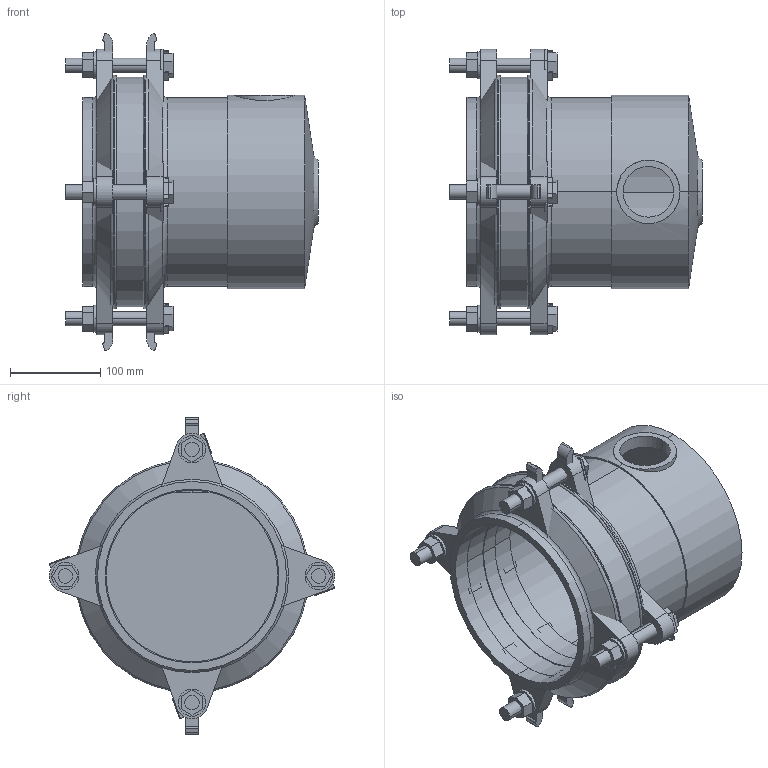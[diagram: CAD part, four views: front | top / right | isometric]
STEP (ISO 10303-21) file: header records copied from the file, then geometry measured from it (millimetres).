
FILE_DESCRIPTION(('STEP AP214'),'1');
FILE_NAME('HDA0004930 DN 150 radial.STP','2015-02-06T10:22:07',(' '),(' '),'Spatial InterOp 3D',' ',' ');
FILE_SCHEMA(('automotive_design'));
Length unit declared in the file: millimetre
Products named in the file (44): 3D-Objekt
Bounding box: 279 x 315.52 x 350 mm (x, y, z)
Volume: 2805151.2 mm3; surface area: 769253.2 mm2
Topology: 44 solids, 44 shells, 340 faces, 749 edges, 497 vertices
Faces by surface type: plane 230, cylinder 86, cone 12, torus 12
Entity records: 13377 total; most frequent: CARTESIAN_POINT 1892, DIRECTION 1738, ORIENTED_EDGE 1498, EDGE_CURVE 749, AXIS2_PLACEMENT_3D 610, LINE 518, VECTOR 518, VERTEX_POINT 497
